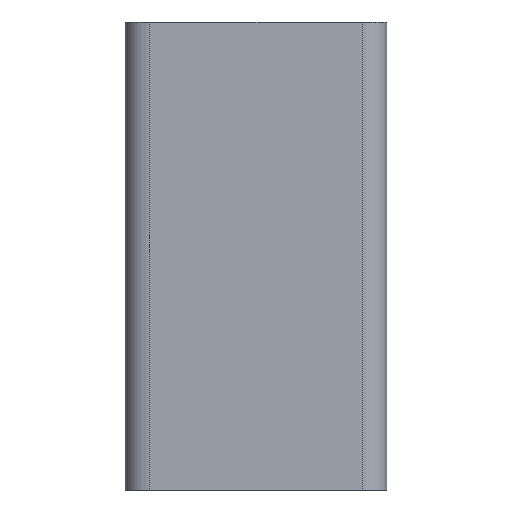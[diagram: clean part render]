
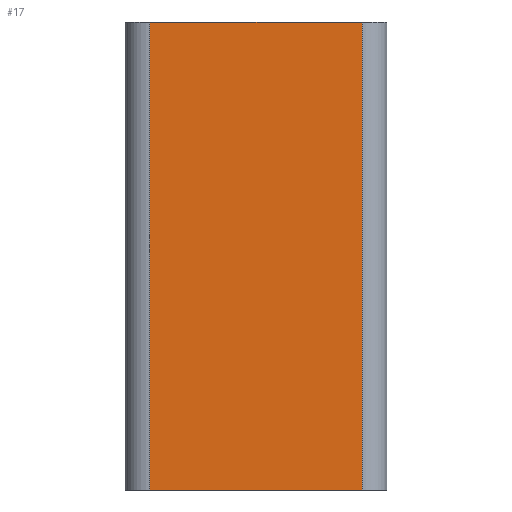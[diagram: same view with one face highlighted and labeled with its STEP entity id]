
A CAD part, left-side view. The second image highlights one B-rep face of the part: STEP entity #17.
In plain terms, the highlighted planar face has unit normal (-1, 0, 0).
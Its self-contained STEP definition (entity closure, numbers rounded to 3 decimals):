
#17 = ADVANCED_FACE('',(#18),#32,.F.);
#18 = FACE_BOUND('',#19,.F.);
#19 = EDGE_LOOP('',(#20,#55,#83,#111));
#20 = ORIENTED_EDGE('',*,*,#21,.F.);
#21 = EDGE_CURVE('',#22,#24,#26,.T.);
#22 = VERTEX_POINT('',#23);
#23 = CARTESIAN_POINT('',(-27.705,-12.366,27.25));
#24 = VERTEX_POINT('',#25);
#25 = CARTESIAN_POINT('',(-27.705,12.366,27.25));
#26 = SURFACE_CURVE('',#27,(#31,#43),.PCURVE_S1.);
#27 = LINE('',#28,#29);
#28 = CARTESIAN_POINT('',(-27.705,-15.25,27.25));
#29 = VECTOR('',#30,1.);
#30 = DIRECTION('',(0.,1.,0.));
#31 = PCURVE('',#32,#37);
#32 = PLANE('',#33);
#33 = AXIS2_PLACEMENT_3D('',#34,#35,#36);
#34 = CARTESIAN_POINT('',(-27.705,-15.25,-27.25));
#35 = DIRECTION('',(1.,0.,0.));
#36 = DIRECTION('',(0.,0.,1.));
#37 = DEFINITIONAL_REPRESENTATION('',(#38),#42);
#38 = LINE('',#39,#40);
#39 = CARTESIAN_POINT('',(54.5,0.));
#40 = VECTOR('',#41,1.);
#41 = DIRECTION('',(0.,-1.));
#42 = ( GEOMETRIC_REPRESENTATION_CONTEXT(2) 
PARAMETRIC_REPRESENTATION_CONTEXT() REPRESENTATION_CONTEXT('2D SPACE',''
  ) );
#43 = PCURVE('',#44,#49);
#44 = PLANE('',#45);
#45 = AXIS2_PLACEMENT_3D('',#46,#47,#48);
#46 = CARTESIAN_POINT('',(-27.705,-15.25,27.25));
#47 = DIRECTION('',(0.,0.,1.));
#48 = DIRECTION('',(1.,0.,0.));
#49 = DEFINITIONAL_REPRESENTATION('',(#50),#54);
#50 = LINE('',#51,#52);
#51 = CARTESIAN_POINT('',(0.,0.));
#52 = VECTOR('',#53,1.);
#53 = DIRECTION('',(0.,1.));
#54 = ( GEOMETRIC_REPRESENTATION_CONTEXT(2) 
PARAMETRIC_REPRESENTATION_CONTEXT() REPRESENTATION_CONTEXT('2D SPACE',''
  ) );
#55 = ORIENTED_EDGE('',*,*,#56,.F.);
#56 = EDGE_CURVE('',#57,#22,#59,.T.);
#57 = VERTEX_POINT('',#58);
#58 = CARTESIAN_POINT('',(-27.705,-12.366,-27.25));
#59 = SURFACE_CURVE('',#60,(#64,#71),.PCURVE_S1.);
#60 = LINE('',#61,#62);
#61 = CARTESIAN_POINT('',(-27.705,-12.366,-27.25));
#62 = VECTOR('',#63,1.);
#63 = DIRECTION('',(0.,0.,1.));
#64 = PCURVE('',#32,#65);
#65 = DEFINITIONAL_REPRESENTATION('',(#66),#70);
#66 = LINE('',#67,#68);
#67 = CARTESIAN_POINT('',(0.,-2.884));
#68 = VECTOR('',#69,1.);
#69 = DIRECTION('',(1.,0.));
#70 = ( GEOMETRIC_REPRESENTATION_CONTEXT(2) 
PARAMETRIC_REPRESENTATION_CONTEXT() REPRESENTATION_CONTEXT('2D SPACE',''
  ) );
#71 = PCURVE('',#72,#77);
#72 = CYLINDRICAL_SURFACE('',#73,2.884);
#73 = AXIS2_PLACEMENT_3D('',#74,#75,#76);
#74 = CARTESIAN_POINT('',(-24.821,-12.366,-27.25));
#75 = DIRECTION('',(0.,0.,1.));
#76 = DIRECTION('',(-1.,-0.,0.));
#77 = DEFINITIONAL_REPRESENTATION('',(#78),#82);
#78 = LINE('',#79,#80);
#79 = CARTESIAN_POINT('',(0.,0.));
#80 = VECTOR('',#81,1.);
#81 = DIRECTION('',(0.,1.));
#82 = ( GEOMETRIC_REPRESENTATION_CONTEXT(2) 
PARAMETRIC_REPRESENTATION_CONTEXT() REPRESENTATION_CONTEXT('2D SPACE',''
  ) );
#83 = ORIENTED_EDGE('',*,*,#84,.T.);
#84 = EDGE_CURVE('',#57,#85,#87,.T.);
#85 = VERTEX_POINT('',#86);
#86 = CARTESIAN_POINT('',(-27.705,12.366,-27.25));
#87 = SURFACE_CURVE('',#88,(#92,#99),.PCURVE_S1.);
#88 = LINE('',#89,#90);
#89 = CARTESIAN_POINT('',(-27.705,-15.25,-27.25));
#90 = VECTOR('',#91,1.);
#91 = DIRECTION('',(0.,1.,0.));
#92 = PCURVE('',#32,#93);
#93 = DEFINITIONAL_REPRESENTATION('',(#94),#98);
#94 = LINE('',#95,#96);
#95 = CARTESIAN_POINT('',(0.,0.));
#96 = VECTOR('',#97,1.);
#97 = DIRECTION('',(0.,-1.));
#98 = ( GEOMETRIC_REPRESENTATION_CONTEXT(2) 
PARAMETRIC_REPRESENTATION_CONTEXT() REPRESENTATION_CONTEXT('2D SPACE',''
  ) );
#99 = PCURVE('',#100,#105);
#100 = PLANE('',#101);
#101 = AXIS2_PLACEMENT_3D('',#102,#103,#104);
#102 = CARTESIAN_POINT('',(-27.705,-15.25,-27.25));
#103 = DIRECTION('',(0.,0.,1.));
#104 = DIRECTION('',(1.,0.,0.));
#105 = DEFINITIONAL_REPRESENTATION('',(#106),#110);
#106 = LINE('',#107,#108);
#107 = CARTESIAN_POINT('',(0.,0.));
#108 = VECTOR('',#109,1.);
#109 = DIRECTION('',(0.,1.));
#110 = ( GEOMETRIC_REPRESENTATION_CONTEXT(2) 
PARAMETRIC_REPRESENTATION_CONTEXT() REPRESENTATION_CONTEXT('2D SPACE',''
  ) );
#111 = ORIENTED_EDGE('',*,*,#112,.T.);
#112 = EDGE_CURVE('',#85,#24,#113,.T.);
#113 = SURFACE_CURVE('',#114,(#118,#125),.PCURVE_S1.);
#114 = LINE('',#115,#116);
#115 = CARTESIAN_POINT('',(-27.705,12.366,-27.25));
#116 = VECTOR('',#117,1.);
#117 = DIRECTION('',(0.,0.,1.));
#118 = PCURVE('',#32,#119);
#119 = DEFINITIONAL_REPRESENTATION('',(#120),#124);
#120 = LINE('',#121,#122);
#121 = CARTESIAN_POINT('',(0.,-27.616));
#122 = VECTOR('',#123,1.);
#123 = DIRECTION('',(1.,0.));
#124 = ( GEOMETRIC_REPRESENTATION_CONTEXT(2) 
PARAMETRIC_REPRESENTATION_CONTEXT() REPRESENTATION_CONTEXT('2D SPACE',''
  ) );
#125 = PCURVE('',#126,#131);
#126 = CYLINDRICAL_SURFACE('',#127,2.884);
#127 = AXIS2_PLACEMENT_3D('',#128,#129,#130);
#128 = CARTESIAN_POINT('',(-24.821,12.366,-27.25));
#129 = DIRECTION('',(0.,0.,1.));
#130 = DIRECTION('',(-1.,-0.,0.));
#131 = DEFINITIONAL_REPRESENTATION('',(#132),#136);
#132 = LINE('',#133,#134);
#133 = CARTESIAN_POINT('',(-0.,0.));
#134 = VECTOR('',#135,1.);
#135 = DIRECTION('',(-0.,1.));
#136 = ( GEOMETRIC_REPRESENTATION_CONTEXT(2) 
PARAMETRIC_REPRESENTATION_CONTEXT() REPRESENTATION_CONTEXT('2D SPACE',''
  ) );
